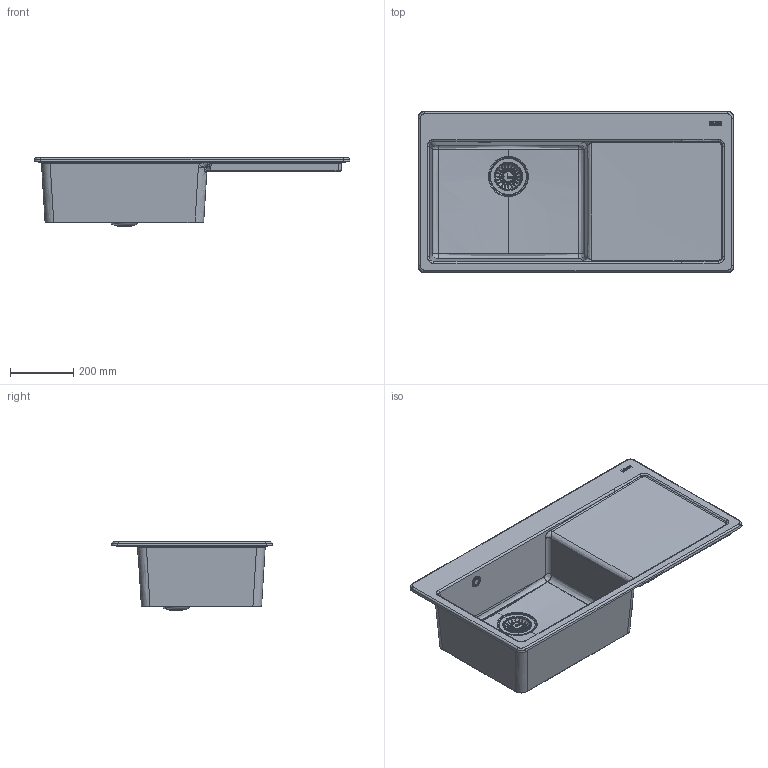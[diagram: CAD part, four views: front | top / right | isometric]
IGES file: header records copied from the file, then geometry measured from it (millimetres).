
Global section: file name: F:\_CONVERSIONE_CAD_2024_2025\PACCHETTI_2026\NUOVI_PACCHETTI_LUGLIO\PRIORITY_2\3D001_Sinks_MythosX_MYK-611-100-FTL-RHD\3D001_Sinks_MythosX_MYK-611-100-FTL-RHD.igs; native system: Rhinoceros ( May  6 2026 ); preprocessor: Trout Lake IGES 012 May  6 2026; date: 260708.130827; units: millimetre
Bounding box: 1000 x 510 x 217.85 mm (x, y, z)
Surface area: 1776869.7 mm2 (no closed solid volume)
Topology: 0 solids, 0 shells, 1741 faces, 12362 edges, 12278 vertices
Faces by surface type: bspline 1741
